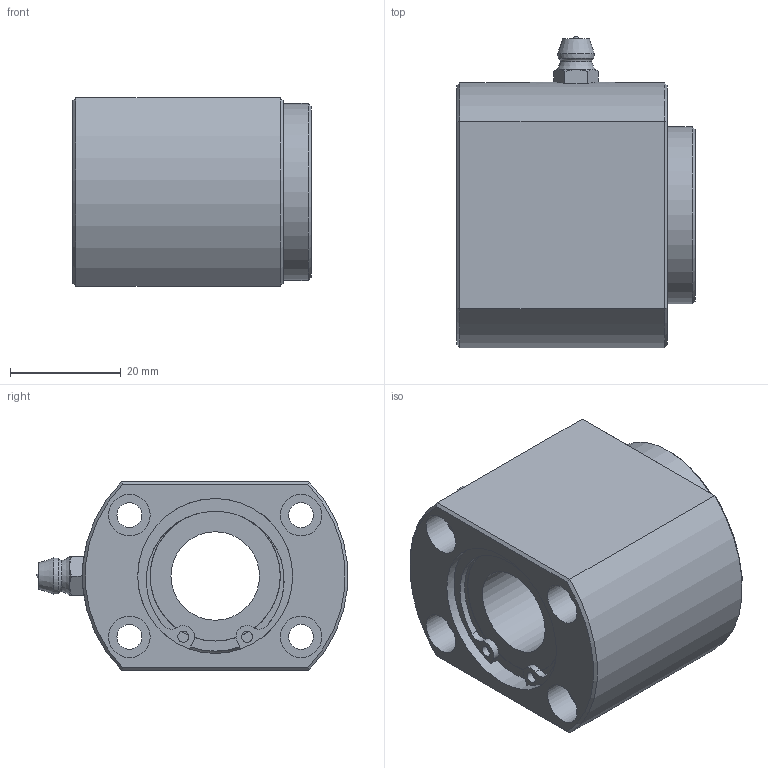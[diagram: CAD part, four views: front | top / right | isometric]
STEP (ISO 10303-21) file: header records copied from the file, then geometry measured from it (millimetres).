
FILE_DESCRIPTION((''),'2;1');
FILE_NAME('D:\製品 (図面)\カタログ用3D\リニアベアリング関連(改)\STEP形式\CTB\CTB16.stp','2010-01-25T09:46:38',('Tsuchiya'),(''),'Autodesk Inventor 10','Autodesk Inventor 10','');
FILE_SCHEMA(('AUTOMOTIVE_DESIGN { 1 0 10303 214 1 1 1 1 }'));
Length unit declared in the file: millimetre
Products named in the file (1): CTB16
Bounding box: 43 x 56.21 x 34 mm (x, y, z)
Volume: 46514.4 mm3; surface area: 14382.6 mm2
Topology: 1 solids, 3 shells, 103 faces, 256 edges, 158 vertices
Faces by surface type: plane 44, cylinder 27, bspline 16, cone 12, sphere 2, torus 2
Full cylindrical faces by diameter (mm): 2 x2, 4.5 x4, 7.5 x4, 16 x1, 23.5 x2, 26.6 x2, 28 x4, 32 x1
Entity records: 2940 total; most frequent: CARTESIAN_POINT 700, DIRECTION 490, ORIENTED_EDGE 402, AXIS2_PLACEMENT_3D 221, EDGE_CURVE 201, EDGE_LOOP 162, VERTEX_POINT 137, CIRCLE 129
